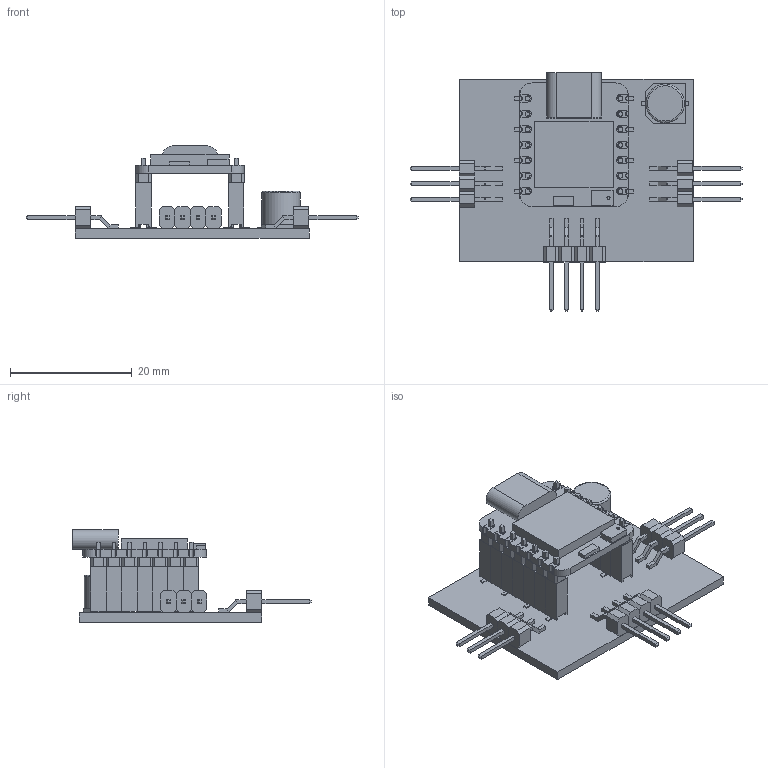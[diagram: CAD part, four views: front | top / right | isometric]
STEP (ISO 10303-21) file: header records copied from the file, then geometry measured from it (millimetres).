
FILE_DESCRIPTION(('KiCad electronic assembly'),'2;1');
FILE_NAME('week-10-pcb.step','2026-05-19T13:45:00',('Pcbnew'),('Kicad'), 'Open CASCADE STEP processor 7.8','KiCad to STEP converter','Unknown' );
FILE_SCHEMA(('AUTOMOTIVE_DESIGN { 1 0 10303 214 1 1 1 1 }'));
Length unit declared in the file: millimetre
Products named in the file (21): week-10-pcb 1; Header_SMD_01x04_P2.54mm_Horizontal_Male; week-10-pcb 1.1.1; week-10-pcb 1.1.2; Capacitor_Panasonic-EEE-FN1E101UL; ContactClone; Contact; Cylinder; Base; Header_SMD_01x03_P2.54mm_Horizontal_Male; week-10-pcb 1.3.1; week-10-pcb 1.3.2; Seeed_XIAO-Generic_InSocket_SMD; week-10-pcb 1.5.1; week-10-pcb 1.5.2; week-10-pcb 1.5.3; week-10-pcb 1.5.4; week-10-pcb 1.5.5; week-10-pcb 1.5.6; week-10-pcb 1.5.7; week-10-pcb_PCB
Assembly tree (21 placements, depth 3):
  week-10-pcb 1
    Header_SMD_01x04_P2.54mm_Horizontal_Male
      week-10-pcb 1.1.1
      week-10-pcb 1.1.2
    Capacitor_Panasonic-EEE-FN1E101UL
      ContactClone
      Contact
      Cylinder
      Base
    Header_SMD_01x03_P2.54mm_Horizontal_Male  x2
      week-10-pcb 1.3.1
      week-10-pcb 1.3.2
    Seeed_XIAO-Generic_InSocket_SMD
      week-10-pcb 1.5.1
      week-10-pcb 1.5.2
      week-10-pcb 1.5.3
      week-10-pcb 1.5.4
      week-10-pcb 1.5.5
      week-10-pcb 1.5.6
      week-10-pcb 1.5.7
    week-10-pcb_PCB
Bounding box: 54.56 x 39.14 x 15.15 mm (x, y, z)
Volume: 3763 mm3; surface area: 7588 mm2
Topology: 86 solids, 86 shells, 1448 faces, 3410 edges, 2179 vertices
Faces by surface type: plane 1277, cylinder 150, revolution 20, torus 1
Full cylindrical faces by diameter (mm): 0.5 x1, 0.7 x14, 0.8 x28, 6.3 x1
Entity records: 37828 total; most frequent: CARTESIAN_POINT 6535, ORIENTED_EDGE 6280, DIRECTION 6158, EDGE_CURVE 3140, LINE 2796, VECTOR 2796, VERTEX_POINT 2023, AXIS2_PLACEMENT_3D 1674
